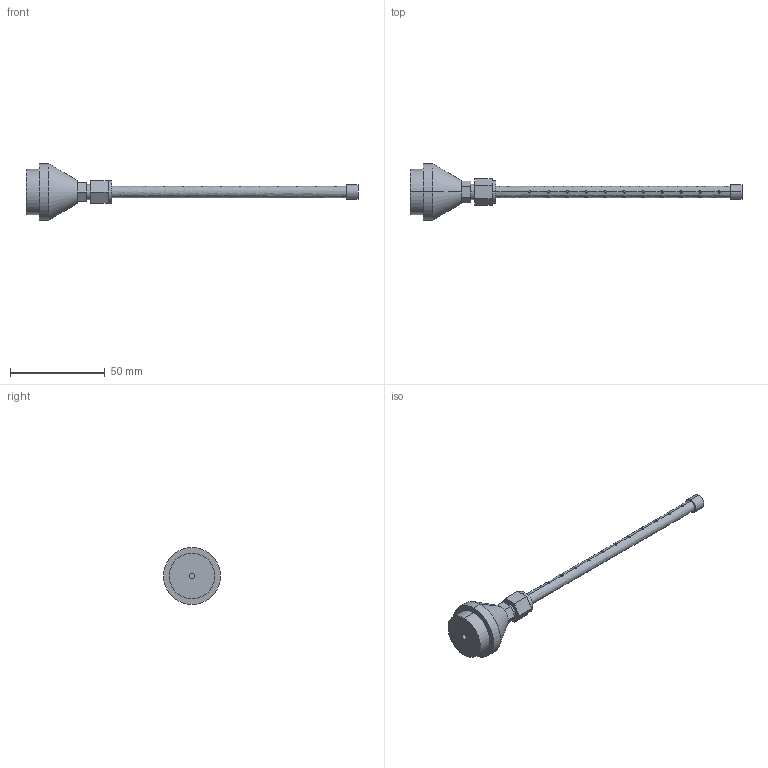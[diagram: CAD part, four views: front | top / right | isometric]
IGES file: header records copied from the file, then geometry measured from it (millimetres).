
Start section: SolidWorks IGES FILE using analytic representation for surfaces
Global section: file name: \\intra-srv04\開発データ\CAD_Data\CAD委員会\3D電子ｶﾀﾛｸﾞ\製品カタログ（新）\0_IGES\ER-AB10.IGS,41HSolidWorks 2004; native system: by SolidWorks Corporation; preprocessor: Version 5.3; author: mf1158; date: 050905.093217; units: millimetre
Bounding box: 175 x 30 x 30 mm (x, y, z)
Volume: 16690.3 mm3; surface area: 7947.6 mm2
Topology: 1 solids, 1 shells, 65 faces, 180 edges, 102 vertices
Faces by surface type: revolution 38, plane 27
